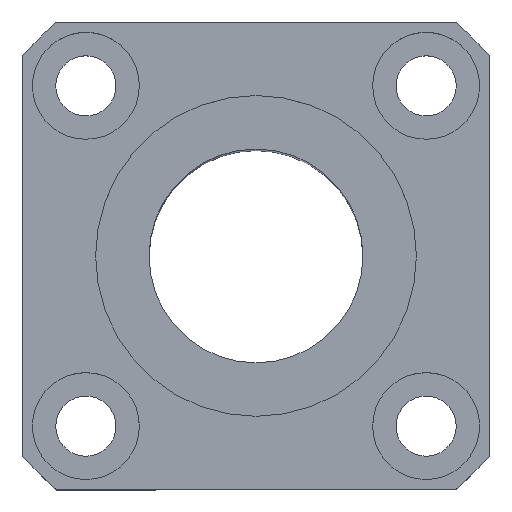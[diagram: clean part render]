
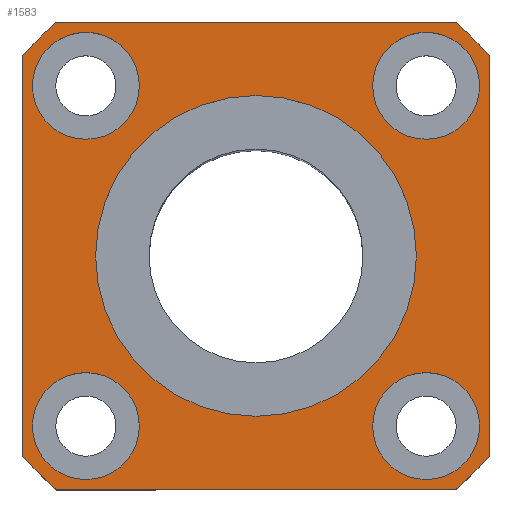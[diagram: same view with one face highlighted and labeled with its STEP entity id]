
A CAD part, top view. The second image highlights one B-rep face of the part: STEP entity #1583.
In plain terms, the highlighted planar face has unit normal (0, 0, 1).
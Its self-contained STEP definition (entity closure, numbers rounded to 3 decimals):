
#133=CARTESIAN_POINT('',(-12.,0.,70.0));
#134=VERTEX_POINT('',#133);
#143=CARTESIAN_POINT('',(12.,0.,70.0));
#144=VERTEX_POINT('',#143);
#145=CARTESIAN_POINT('',(0.0,0.0,70.0));
#146=DIRECTION('',(0.0,0.0,-1.0));
#147=DIRECTION('',(-1.0,0.0,0.0));
#148=AXIS2_PLACEMENT_3D('',#145,#146,#147);
#149=CIRCLE('',#148,12.);
#150=EDGE_CURVE('',#144,#134,#149,.T.);
#303=CARTESIAN_POINT('',(-8.728,12.728,70.0));
#304=VERTEX_POINT('',#303);
#320=CARTESIAN_POINT('',(-16.728,12.728,70.0));
#321=VERTEX_POINT('',#320);
#328=CARTESIAN_POINT('',(-12.728,12.728,70.0));
#329=DIRECTION('',(0.0,0.0,-1.0));
#330=DIRECTION('',(1.0,0.0,0.0));
#331=AXIS2_PLACEMENT_3D('',#328,#329,#330);
#332=CIRCLE('',#331,4.0);
#333=EDGE_CURVE('',#304,#321,#332,.T.);
#429=CARTESIAN_POINT('',(-12.728,-8.728,70.0));
#430=VERTEX_POINT('',#429);
#446=CARTESIAN_POINT('',(-12.728,-16.728,70.0));
#447=VERTEX_POINT('',#446);
#454=CARTESIAN_POINT('',(-12.728,-12.728,70.0));
#455=DIRECTION('',(0.0,0.0,-1.0));
#456=DIRECTION('',(0.0,1.0,0.0));
#457=AXIS2_PLACEMENT_3D('',#454,#455,#456);
#458=CIRCLE('',#457,4.0);
#459=EDGE_CURVE('',#430,#447,#458,.T.);
#555=CARTESIAN_POINT('',(8.728,-12.728,70.0));
#556=VERTEX_POINT('',#555);
#572=CARTESIAN_POINT('',(16.728,-12.728,70.0));
#573=VERTEX_POINT('',#572);
#580=CARTESIAN_POINT('',(12.728,-12.728,70.0));
#581=DIRECTION('',(0.0,0.0,-1.0));
#582=DIRECTION('',(-1.0,0.0,0.0));
#583=AXIS2_PLACEMENT_3D('',#580,#581,#582);
#584=CIRCLE('',#583,4.0);
#585=EDGE_CURVE('',#556,#573,#584,.T.);
#681=CARTESIAN_POINT('',(12.728,8.728,70.0));
#682=VERTEX_POINT('',#681);
#698=CARTESIAN_POINT('',(12.728,16.728,70.0));
#699=VERTEX_POINT('',#698);
#706=CARTESIAN_POINT('',(12.728,12.728,70.0));
#707=DIRECTION('',(0.0,0.0,-1.0));
#708=DIRECTION('',(0.0,-1.0,0.0));
#709=AXIS2_PLACEMENT_3D('',#706,#707,#708);
#710=CIRCLE('',#709,4.0);
#711=EDGE_CURVE('',#682,#699,#710,.T.);
#769=CARTESIAN_POINT('',(12.728,12.728,70.0));
#770=DIRECTION('',(0.0,0.0,-1.0));
#771=DIRECTION('',(0.0,-1.0,0.0));
#772=AXIS2_PLACEMENT_3D('',#769,#770,#771);
#773=CIRCLE('',#772,4.0);
#774=EDGE_CURVE('',#699,#682,#773,.T.);
#873=CARTESIAN_POINT('',(12.728,-12.728,70.0));
#874=DIRECTION('',(0.0,0.0,-1.0));
#875=DIRECTION('',(-1.0,0.0,0.0));
#876=AXIS2_PLACEMENT_3D('',#873,#874,#875);
#877=CIRCLE('',#876,4.0);
#878=EDGE_CURVE('',#573,#556,#877,.T.);
#977=CARTESIAN_POINT('',(-12.728,-12.728,70.0));
#978=DIRECTION('',(0.0,0.0,-1.0));
#979=DIRECTION('',(0.0,1.0,0.0));
#980=AXIS2_PLACEMENT_3D('',#977,#978,#979);
#981=CIRCLE('',#980,4.0);
#982=EDGE_CURVE('',#447,#430,#981,.T.);
#1081=CARTESIAN_POINT('',(-12.728,12.728,70.0));
#1082=DIRECTION('',(0.0,0.0,-1.0));
#1083=DIRECTION('',(1.0,0.0,0.0));
#1084=AXIS2_PLACEMENT_3D('',#1081,#1082,#1083);
#1085=CIRCLE('',#1084,4.0);
#1086=EDGE_CURVE('',#321,#304,#1085,.T.);
#1147=CARTESIAN_POINT('',(-17.5,-14.925,70.0));
#1148=VERTEX_POINT('',#1147);
#1155=CARTESIAN_POINT('',(-17.5,14.925,70.0));
#1156=VERTEX_POINT('',#1155);
#1157=CARTESIAN_POINT('',(-17.5,14.925,70.0));
#1158=DIRECTION('',(0.0,-1.0,0.0));
#1159=VECTOR('',#1158,29.85);
#1160=LINE('',#1157,#1159);
#1161=EDGE_CURVE('',#1156,#1148,#1160,.T.);
#1186=CARTESIAN_POINT('',(-14.925,-17.5,70.0));
#1187=VERTEX_POINT('',#1186);
#1194=CARTESIAN_POINT('',(0.0,0.0,70.0));
#1195=DIRECTION('',(0.0,0.0,1.0));
#1196=DIRECTION('',(1.0,0.0,0.0));
#1197=AXIS2_PLACEMENT_3D('',#1194,#1195,#1196);
#1198=CIRCLE('',#1197,23.);
#1199=EDGE_CURVE('',#1148,#1187,#1198,.T.);
#1218=CARTESIAN_POINT('',(14.925,-17.5,70.0));
#1219=VERTEX_POINT('',#1218);
#1226=CARTESIAN_POINT('',(-14.925,-17.5,70.0));
#1227=DIRECTION('',(1.0,0.0,0.0));
#1228=VECTOR('',#1227,29.85);
#1229=LINE('',#1226,#1228);
#1230=EDGE_CURVE('',#1187,#1219,#1229,.T.);
#1250=CARTESIAN_POINT('',(17.5,-14.925,70.0));
#1251=VERTEX_POINT('',#1250);
#1258=CARTESIAN_POINT('',(0.0,0.0,70.0));
#1259=DIRECTION('',(0.0,0.0,1.0));
#1260=DIRECTION('',(1.0,0.0,0.0));
#1261=AXIS2_PLACEMENT_3D('',#1258,#1259,#1260);
#1262=CIRCLE('',#1261,23.);
#1263=EDGE_CURVE('',#1219,#1251,#1262,.T.);
#1282=CARTESIAN_POINT('',(17.5,14.925,70.0));
#1283=VERTEX_POINT('',#1282);
#1290=CARTESIAN_POINT('',(17.5,-14.925,70.0));
#1291=DIRECTION('',(0.0,1.0,0.0));
#1292=VECTOR('',#1291,29.85);
#1293=LINE('',#1290,#1292);
#1294=EDGE_CURVE('',#1251,#1283,#1293,.T.);
#1314=CARTESIAN_POINT('',(14.925,17.5,70.0));
#1315=VERTEX_POINT('',#1314);
#1322=CARTESIAN_POINT('',(0.0,0.0,70.0));
#1323=DIRECTION('',(0.0,0.0,1.0));
#1324=DIRECTION('',(1.0,0.0,0.0));
#1325=AXIS2_PLACEMENT_3D('',#1322,#1323,#1324);
#1326=CIRCLE('',#1325,23.);
#1327=EDGE_CURVE('',#1283,#1315,#1326,.T.);
#1346=CARTESIAN_POINT('',(-14.925,17.5,70.0));
#1347=VERTEX_POINT('',#1346);
#1354=CARTESIAN_POINT('',(14.925,17.5,70.0));
#1355=DIRECTION('',(-1.0,0.0,0.0));
#1356=VECTOR('',#1355,29.85);
#1357=LINE('',#1354,#1356);
#1358=EDGE_CURVE('',#1315,#1347,#1357,.T.);
#1377=CARTESIAN_POINT('',(0.0,0.0,70.0));
#1378=DIRECTION('',(0.0,0.0,1.0));
#1379=DIRECTION('',(1.0,0.0,0.0));
#1380=AXIS2_PLACEMENT_3D('',#1377,#1378,#1379);
#1381=CIRCLE('',#1380,23.);
#1382=EDGE_CURVE('',#1347,#1156,#1381,.T.);
#1502=CARTESIAN_POINT('',(0.0,0.0,70.0));
#1503=DIRECTION('',(0.0,0.0,-1.0));
#1504=DIRECTION('',(-1.0,0.0,0.0));
#1505=AXIS2_PLACEMENT_3D('',#1502,#1503,#1504);
#1506=CIRCLE('',#1505,12.);
#1507=EDGE_CURVE('',#134,#144,#1506,.T.);
#1548=CARTESIAN_POINT('',(0.0,0.0,70.0));
#1549=DIRECTION('',(0.0,0.0,-1.0));
#1550=DIRECTION('',(-1.0,0.0,0.0));
#1551=AXIS2_PLACEMENT_3D('',#1548,#1549,#1550);
#1552=PLANE('',#1551);
#1553=ORIENTED_EDGE('',*,*,#1382,.T.);
#1554=ORIENTED_EDGE('',*,*,#1161,.T.);
#1555=ORIENTED_EDGE('',*,*,#1199,.T.);
#1556=ORIENTED_EDGE('',*,*,#1230,.T.);
#1557=ORIENTED_EDGE('',*,*,#1263,.T.);
#1558=ORIENTED_EDGE('',*,*,#1294,.T.);
#1559=ORIENTED_EDGE('',*,*,#1327,.T.);
#1560=ORIENTED_EDGE('',*,*,#1358,.T.);
#1561=EDGE_LOOP('',(#1553,#1554,#1555,#1556,#1557,#1558,#1559,#1560));
#1562=FACE_OUTER_BOUND('',#1561,.T.);
#1563=ORIENTED_EDGE('',*,*,#711,.T.);
#1564=ORIENTED_EDGE('',*,*,#774,.T.);
#1565=EDGE_LOOP('',(#1563,#1564));
#1566=FACE_BOUND('',#1565,.T.);
#1567=ORIENTED_EDGE('',*,*,#585,.T.);
#1568=ORIENTED_EDGE('',*,*,#878,.T.);
#1569=EDGE_LOOP('',(#1567,#1568));
#1570=FACE_BOUND('',#1569,.T.);
#1571=ORIENTED_EDGE('',*,*,#459,.T.);
#1572=ORIENTED_EDGE('',*,*,#982,.T.);
#1573=EDGE_LOOP('',(#1571,#1572));
#1574=FACE_BOUND('',#1573,.T.);
#1575=ORIENTED_EDGE('',*,*,#333,.T.);
#1576=ORIENTED_EDGE('',*,*,#1086,.T.);
#1577=EDGE_LOOP('',(#1575,#1576));
#1578=FACE_BOUND('',#1577,.T.);
#1579=ORIENTED_EDGE('',*,*,#150,.T.);
#1580=ORIENTED_EDGE('',*,*,#1507,.T.);
#1581=EDGE_LOOP('',(#1579,#1580));
#1582=FACE_BOUND('',#1581,.T.);
#1583=ADVANCED_FACE('',(#1562,#1566,#1570,#1574,#1578,#1582),#1552,.F.);
